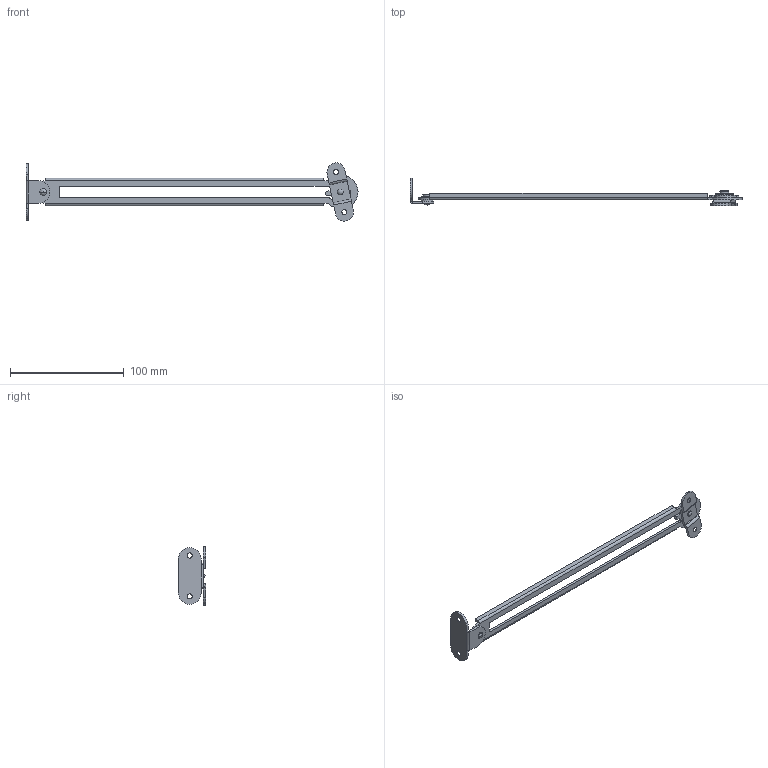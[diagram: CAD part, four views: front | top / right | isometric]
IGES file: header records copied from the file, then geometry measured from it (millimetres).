
Global section: file name: No Iges File Name specified; native system: AutoDesk Inventor R11.0; preprocessor: AutoDesk Inventor Iges Exporter R11.0; author: No Author specified; organization: No Organization specified; date: 20130711.154823; units: millimetre
Bounding box: 292.08 x 24 x 51.23 mm (x, y, z)
Volume: 17035.5 mm3; surface area: 21246.9 mm2
Topology: 11 solids, 11 shells, 165 faces, 380 edges, 241 vertices
Faces by surface type: plane 72, cylinder 46, revolution 40, cone 4, bspline 2, sphere 1
